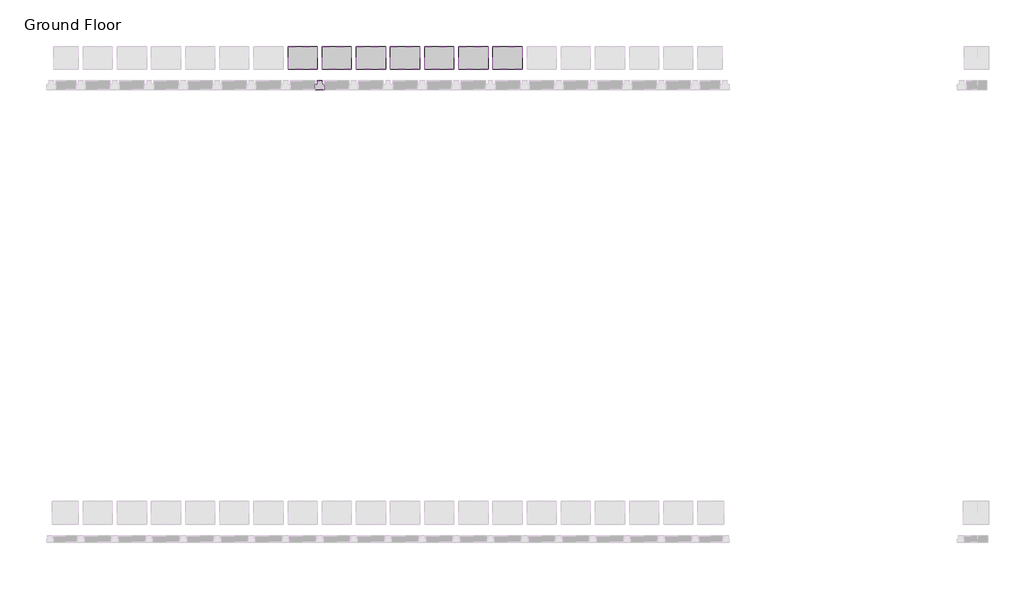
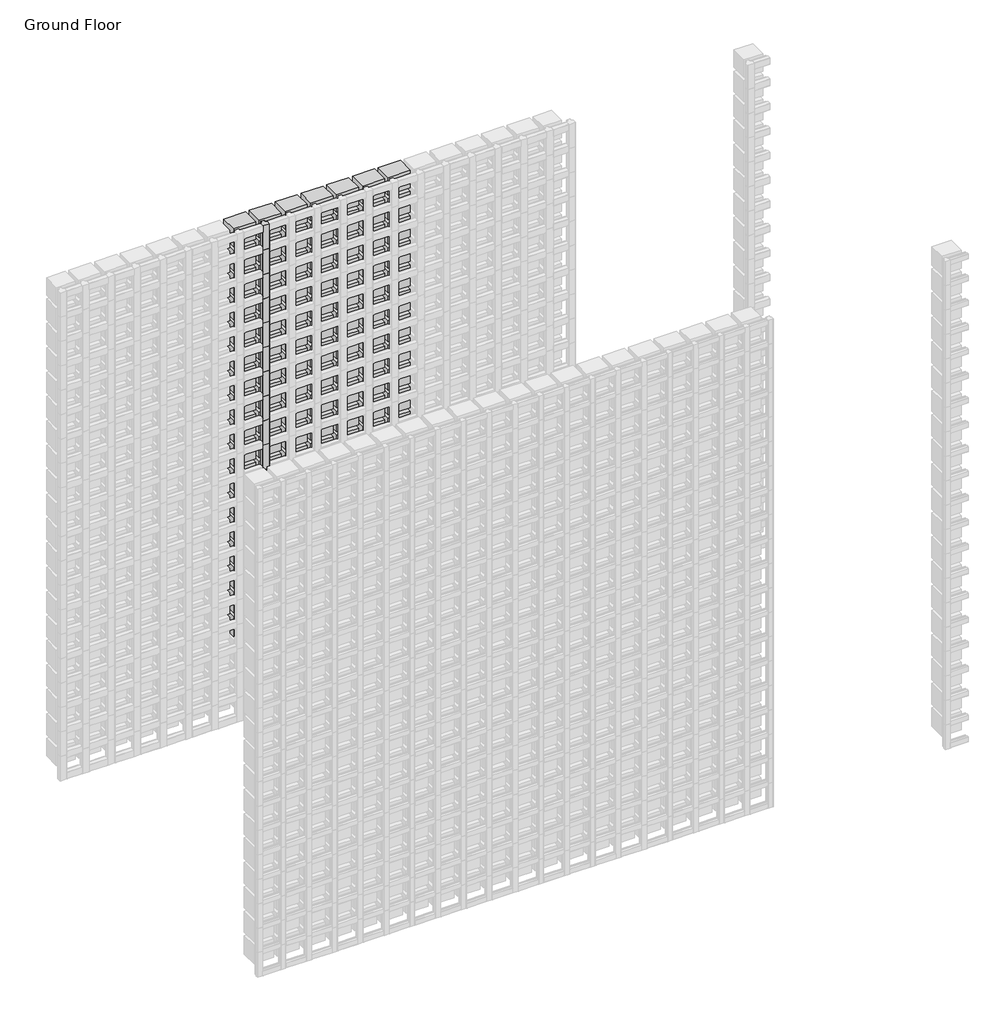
# One storey, part 121 of 350: 120 plates, 19 members.
"""IFC4 building model written with IfcOpenShell, lengths in millimetres."""

from ifc_helpers import new_model, si_unit, origin, place, context, project, spatial, transform, mapped, element, save
from components import rectangular_mullion_84e0df2e, empty_system_panel_empty_5a3607ba, empty_system_panel_empty_5e80e148

model = new_model("IFC4")

# Units and contexts
model_context = context("Model", 3, world=origin())
ifc_project = project(units=[si_unit("LENGTHUNIT", "METRE", prefix="MILLI")], contexts=[model_context])

# Site, building, storey
site = spatial("IfcSite", under=ifc_project)
building = spatial("IfcBuilding", under=site)
storey = spatial("IfcBuildingStorey", under=building, Name="Ground Floor", Elevation=0.0)

# Members
placement = place(None, origin())
rectangular_mullion_shape = rectangular_mullion_84e0df2e(model_context)
element("IfcMember", 1, ObjectType="Rectangular Mullion : Batten_Timber_Modinex_Austratus_Grid_Fin_40x40_Blackbutt", at=placement, inside=storey, context=model_context, shape_type="MappedRepresentation", body=[
    mapped(rectangular_mullion_shape, transform((7116.4361642, 44968.2978302, 150.0), x_axis=(1.0, 0.0, 0.0), y_axis=(0.0, -1.0, 0.0), z_axis=(0.0, 0.0, -1.0))),
])
element("IfcMember", 2, ObjectType="Rectangular Mullion : Batten_Timber_Modinex_Austratus_Grid_Fin_40x40_Blackbutt", at=placement, inside=storey, context=model_context, shape_type="MappedRepresentation", body=[
    mapped(rectangular_mullion_shape, transform((7116.4361642, 44968.2978302, 300.0), x_axis=(1.0, 0.0, 0.0), y_axis=(0.0, -1.0, 0.0), z_axis=(0.0, 0.0, -1.0))),
])
element("IfcMember", 3, ObjectType="Rectangular Mullion : Batten_Timber_Modinex_Austratus_Grid_Fin_40x40_Blackbutt", at=placement, inside=storey, context=model_context, shape_type="MappedRepresentation", body=[
    mapped(rectangular_mullion_shape, transform((7116.4361642, 44968.2978302, 450.0), x_axis=(1.0, 0.0, 0.0), y_axis=(0.0, -1.0, 0.0), z_axis=(0.0, 0.0, -1.0))),
])
element("IfcMember", 4, ObjectType="Rectangular Mullion : Batten_Timber_Modinex_Austratus_Grid_Fin_40x40_Blackbutt", at=placement, inside=storey, context=model_context, shape_type="MappedRepresentation", body=[
    mapped(rectangular_mullion_shape, transform((7116.4361642, 44968.2978302, 600.0), x_axis=(1.0, 0.0, 0.0), y_axis=(0.0, -1.0, 0.0), z_axis=(0.0, 0.0, -1.0))),
])
element("IfcMember", 5, ObjectType="Rectangular Mullion : Batten_Timber_Modinex_Austratus_Grid_Fin_40x40_Blackbutt", at=placement, inside=storey, context=model_context, shape_type="MappedRepresentation", body=[
    mapped(rectangular_mullion_shape, transform((7116.4361642, 44968.2978302, 750.0), x_axis=(1.0, 0.0, 0.0), y_axis=(0.0, -1.0, 0.0), z_axis=(0.0, 0.0, -1.0))),
])
element("IfcMember", 6, ObjectType="Rectangular Mullion : Batten_Timber_Modinex_Austratus_Grid_Fin_40x40_Blackbutt", at=placement, inside=storey, context=model_context, shape_type="MappedRepresentation", body=[
    mapped(rectangular_mullion_shape, transform((7116.4361642, 44968.2978302, 900.0), x_axis=(1.0, 0.0, 0.0), y_axis=(0.0, -1.0, 0.0), z_axis=(0.0, 0.0, -1.0))),
])
element("IfcMember", 7, ObjectType="Rectangular Mullion : Batten_Timber_Modinex_Austratus_Grid_Fin_40x40_Blackbutt", at=placement, inside=storey, context=model_context, shape_type="MappedRepresentation", body=[
    mapped(rectangular_mullion_shape, transform((7116.4361642, 44968.2978302, 1050.0), x_axis=(1.0, 0.0, 0.0), y_axis=(0.0, -1.0, 0.0), z_axis=(0.0, 0.0, -1.0))),
])
element("IfcMember", 8, ObjectType="Rectangular Mullion : Batten_Timber_Modinex_Austratus_Grid_Fin_40x40_Blackbutt", at=placement, inside=storey, context=model_context, shape_type="MappedRepresentation", body=[
    mapped(rectangular_mullion_shape, transform((7116.4361642, 44968.2978302, 1200.0), x_axis=(1.0, 0.0, 0.0), y_axis=(0.0, -1.0, 0.0), z_axis=(0.0, 0.0, -1.0))),
])
element("IfcMember", 9, ObjectType="Rectangular Mullion : Batten_Timber_Modinex_Austratus_Grid_Fin_40x40_Blackbutt", at=placement, inside=storey, context=model_context, shape_type="MappedRepresentation", body=[
    mapped(rectangular_mullion_shape, transform((7116.4361642, 44968.2978302, 1350.0), x_axis=(1.0, 0.0, 0.0), y_axis=(0.0, -1.0, 0.0), z_axis=(0.0, 0.0, -1.0))),
])
element("IfcMember", 10, ObjectType="Rectangular Mullion : Batten_Timber_Modinex_Austratus_Grid_Fin_40x40_Blackbutt", at=placement, inside=storey, context=model_context, shape_type="MappedRepresentation", body=[
    mapped(rectangular_mullion_shape, transform((7116.4361642, 44968.2978302, 1500.0), x_axis=(1.0, 0.0, 0.0), y_axis=(0.0, -1.0, 0.0), z_axis=(0.0, 0.0, -1.0))),
])
element("IfcMember", 11, ObjectType="Rectangular Mullion : Batten_Timber_Modinex_Austratus_Grid_Fin_40x40_Blackbutt", at=placement, inside=storey, context=model_context, shape_type="MappedRepresentation", body=[
    mapped(rectangular_mullion_shape, transform((7116.4361642, 44968.2978302, 1650.0), x_axis=(1.0, 0.0, 0.0), y_axis=(0.0, -1.0, 0.0), z_axis=(0.0, 0.0, -1.0))),
])
element("IfcMember", 12, ObjectType="Rectangular Mullion : Batten_Timber_Modinex_Austratus_Grid_Fin_40x40_Blackbutt", at=placement, inside=storey, context=model_context, shape_type="MappedRepresentation", body=[
    mapped(rectangular_mullion_shape, transform((7116.4361642, 44968.2978302, 1800.0), x_axis=(1.0, 0.0, 0.0), y_axis=(0.0, -1.0, 0.0), z_axis=(0.0, 0.0, -1.0))),
])
element("IfcMember", 13, ObjectType="Rectangular Mullion : Batten_Timber_Modinex_Austratus_Grid_Fin_40x40_Blackbutt", at=placement, inside=storey, context=model_context, shape_type="MappedRepresentation", body=[
    mapped(rectangular_mullion_shape, transform((7116.4361642, 44968.2978302, 1950.0), x_axis=(1.0, 0.0, 0.0), y_axis=(0.0, -1.0, 0.0), z_axis=(0.0, 0.0, -1.0))),
])
element("IfcMember", 14, ObjectType="Rectangular Mullion : Batten_Timber_Modinex_Austratus_Grid_Fin_40x40_Blackbutt", at=placement, inside=storey, context=model_context, shape_type="MappedRepresentation", body=[
    mapped(rectangular_mullion_shape, transform((7116.4361642, 44968.2978302, 2100.0), x_axis=(1.0, 0.0, 0.0), y_axis=(0.0, -1.0, 0.0), z_axis=(0.0, 0.0, -1.0))),
])
element("IfcMember", 15, ObjectType="Rectangular Mullion : Batten_Timber_Modinex_Austratus_Grid_Fin_40x40_Blackbutt", at=placement, inside=storey, context=model_context, shape_type="MappedRepresentation", body=[
    mapped(rectangular_mullion_shape, transform((7116.4361642, 44968.2978302, 2250.0), x_axis=(1.0, 0.0, 0.0), y_axis=(0.0, -1.0, 0.0), z_axis=(0.0, 0.0, -1.0))),
])
element("IfcMember", 16, ObjectType="Rectangular Mullion : Batten_Timber_Modinex_Austratus_Grid_Fin_40x40_Blackbutt", at=placement, inside=storey, context=model_context, shape_type="MappedRepresentation", body=[
    mapped(rectangular_mullion_shape, transform((7116.4361642, 44968.2978302, 2400.0), x_axis=(1.0, 0.0, 0.0), y_axis=(0.0, -1.0, 0.0), z_axis=(0.0, 0.0, -1.0))),
])
element("IfcMember", 17, ObjectType="Rectangular Mullion : Batten_Timber_Modinex_Austratus_Grid_Fin_40x40_Blackbutt", at=placement, inside=storey, context=model_context, shape_type="MappedRepresentation", body=[
    mapped(rectangular_mullion_shape, transform((7116.4361642, 44968.2978302, 2550.0), x_axis=(1.0, 0.0, 0.0), y_axis=(0.0, -1.0, 0.0), z_axis=(0.0, 0.0, -1.0))),
])
element("IfcMember", 18, ObjectType="Rectangular Mullion : Batten_Timber_Modinex_Austratus_Grid_Fin_40x40_Blackbutt", at=placement, inside=storey, context=model_context, shape_type="MappedRepresentation", body=[
    mapped(rectangular_mullion_shape, transform((7116.4361642, 44968.2978302, 2700.0), x_axis=(1.0, 0.0, 0.0), y_axis=(0.0, -1.0, 0.0), z_axis=(0.0, 0.0, -1.0))),
])
element("IfcMember", 19, ObjectType="Rectangular Mullion : Batten_Timber_Modinex_Austratus_Grid_Fin_40x40_Blackbutt", at=placement, inside=storey, context=model_context, shape_type="MappedRepresentation", body=[
    mapped(rectangular_mullion_shape, transform((7116.4361642, 44968.2978302, 2850.0), x_axis=(1.0, 0.0, 0.0), y_axis=(0.0, -1.0, 0.0), z_axis=(0.0, 0.0, -1.0))),
])

# Plates
empty_system_panel_empty_shape = empty_system_panel_empty_5a3607ba(model_context)
element("IfcPlate", 20, ObjectType="Empty System Panel : Empty", at=placement, inside=storey, context=model_context, shape_type="MappedRepresentation", body=[
    mapped(empty_system_panel_empty_shape, transform((7941.4361642, 44968.2978302, 310.812195), x_axis=(1.0, 0.0, 0.0), y_axis=(0.0, 1.0, 0.0), z_axis=(0.0, 0.0, 1.0))),
])
element("IfcPlate", 21, ObjectType="Empty System Panel : Empty", at=placement, inside=storey, context=model_context, shape_type="MappedRepresentation", body=[
    mapped(empty_system_panel_empty_shape, transform((7041.4361642, 44968.2978302, 460.812195), x_axis=(1.0, 0.0, 0.0), y_axis=(0.0, 1.0, 0.0), z_axis=(0.0, 0.0, 1.0))),
])
element("IfcPlate", 22, ObjectType="Empty System Panel : Empty", at=placement, inside=storey, context=model_context, shape_type="MappedRepresentation", body=[
    mapped(empty_system_panel_empty_shape, transform((7191.4361642, 44968.2978302, 460.812195), x_axis=(1.0, 0.0, 0.0), y_axis=(0.0, 1.0, 0.0), z_axis=(0.0, 0.0, 1.0))),
])
element("IfcPlate", 23, ObjectType="Empty System Panel : Empty", at=placement, inside=storey, context=model_context, shape_type="MappedRepresentation", body=[
    mapped(empty_system_panel_empty_shape, transform((7341.4361642, 44968.2978302, 460.812195), x_axis=(1.0, 0.0, 0.0), y_axis=(0.0, 1.0, 0.0), z_axis=(0.0, 0.0, 1.0))),
])
element("IfcPlate", 24, ObjectType="Empty System Panel : Empty", at=placement, inside=storey, context=model_context, shape_type="MappedRepresentation", body=[
    mapped(empty_system_panel_empty_shape, transform((7491.4361642, 44968.2978302, 460.812195), x_axis=(1.0, 0.0, 0.0), y_axis=(0.0, 1.0, 0.0), z_axis=(0.0, 0.0, 1.0))),
])
element("IfcPlate", 25, ObjectType="Empty System Panel : Empty", at=placement, inside=storey, context=model_context, shape_type="MappedRepresentation", body=[
    mapped(empty_system_panel_empty_shape, transform((7641.4361642, 44968.2978302, 460.812195), x_axis=(1.0, 0.0, 0.0), y_axis=(0.0, 1.0, 0.0), z_axis=(0.0, 0.0, 1.0))),
])
element("IfcPlate", 26, ObjectType="Empty System Panel : Empty", at=placement, inside=storey, context=model_context, shape_type="MappedRepresentation", body=[
    mapped(empty_system_panel_empty_shape, transform((7791.4361642, 44968.2978302, 460.812195), x_axis=(1.0, 0.0, 0.0), y_axis=(0.0, 1.0, 0.0), z_axis=(0.0, 0.0, 1.0))),
])
element("IfcPlate", 27, ObjectType="Empty System Panel : Empty", at=placement, inside=storey, context=model_context, shape_type="MappedRepresentation", body=[
    mapped(empty_system_panel_empty_shape, transform((7941.4361642, 44968.2978302, 460.812195), x_axis=(1.0, 0.0, 0.0), y_axis=(0.0, 1.0, 0.0), z_axis=(0.0, 0.0, 1.0))),
])
element("IfcPlate", 28, ObjectType="Empty System Panel : Empty", at=placement, inside=storey, context=model_context, shape_type="MappedRepresentation", body=[
    mapped(empty_system_panel_empty_shape, transform((7041.4361642, 44968.2978302, 610.812195), x_axis=(1.0, 0.0, 0.0), y_axis=(0.0, 1.0, 0.0), z_axis=(0.0, 0.0, 1.0))),
])
element("IfcPlate", 29, ObjectType="Empty System Panel : Empty", at=placement, inside=storey, context=model_context, shape_type="MappedRepresentation", body=[
    mapped(empty_system_panel_empty_shape, transform((7191.4361642, 44968.2978302, 610.812195), x_axis=(1.0, 0.0, 0.0), y_axis=(0.0, 1.0, 0.0), z_axis=(0.0, 0.0, 1.0))),
])
element("IfcPlate", 30, ObjectType="Empty System Panel : Empty", at=placement, inside=storey, context=model_context, shape_type="MappedRepresentation", body=[
    mapped(empty_system_panel_empty_shape, transform((7341.4361642, 44968.2978302, 610.812195), x_axis=(1.0, 0.0, 0.0), y_axis=(0.0, 1.0, 0.0), z_axis=(0.0, 0.0, 1.0))),
])
element("IfcPlate", 31, ObjectType="Empty System Panel : Empty", at=placement, inside=storey, context=model_context, shape_type="MappedRepresentation", body=[
    mapped(empty_system_panel_empty_shape, transform((7491.4361642, 44968.2978302, 610.812195), x_axis=(1.0, 0.0, 0.0), y_axis=(0.0, 1.0, 0.0), z_axis=(0.0, 0.0, 1.0))),
])
element("IfcPlate", 32, ObjectType="Empty System Panel : Empty", at=placement, inside=storey, context=model_context, shape_type="MappedRepresentation", body=[
    mapped(empty_system_panel_empty_shape, transform((7641.4361642, 44968.2978302, 610.812195), x_axis=(1.0, 0.0, 0.0), y_axis=(0.0, 1.0, 0.0), z_axis=(0.0, 0.0, 1.0))),
])
element("IfcPlate", 33, ObjectType="Empty System Panel : Empty", at=placement, inside=storey, context=model_context, shape_type="MappedRepresentation", body=[
    mapped(empty_system_panel_empty_shape, transform((7791.4361642, 44968.2978302, 610.812195), x_axis=(1.0, 0.0, 0.0), y_axis=(0.0, 1.0, 0.0), z_axis=(0.0, 0.0, 1.0))),
])
element("IfcPlate", 34, ObjectType="Empty System Panel : Empty", at=placement, inside=storey, context=model_context, shape_type="MappedRepresentation", body=[
    mapped(empty_system_panel_empty_shape, transform((7941.4361642, 44968.2978302, 610.812195), x_axis=(1.0, 0.0, 0.0), y_axis=(0.0, 1.0, 0.0), z_axis=(0.0, 0.0, 1.0))),
])
element("IfcPlate", 35, ObjectType="Empty System Panel : Empty", at=placement, inside=storey, context=model_context, shape_type="MappedRepresentation", body=[
    mapped(empty_system_panel_empty_shape, transform((7041.4361642, 44968.2978302, 760.812195), x_axis=(1.0, 0.0, 0.0), y_axis=(0.0, 1.0, 0.0), z_axis=(0.0, 0.0, 1.0))),
])
element("IfcPlate", 36, ObjectType="Empty System Panel : Empty", at=placement, inside=storey, context=model_context, shape_type="MappedRepresentation", body=[
    mapped(empty_system_panel_empty_shape, transform((7191.4361642, 44968.2978302, 760.812195), x_axis=(1.0, 0.0, 0.0), y_axis=(0.0, 1.0, 0.0), z_axis=(0.0, 0.0, 1.0))),
])
element("IfcPlate", 37, ObjectType="Empty System Panel : Empty", at=placement, inside=storey, context=model_context, shape_type="MappedRepresentation", body=[
    mapped(empty_system_panel_empty_shape, transform((7341.4361642, 44968.2978302, 760.812195), x_axis=(1.0, 0.0, 0.0), y_axis=(0.0, 1.0, 0.0), z_axis=(0.0, 0.0, 1.0))),
])
element("IfcPlate", 38, ObjectType="Empty System Panel : Empty", at=placement, inside=storey, context=model_context, shape_type="MappedRepresentation", body=[
    mapped(empty_system_panel_empty_shape, transform((7491.4361642, 44968.2978302, 760.812195), x_axis=(1.0, 0.0, 0.0), y_axis=(0.0, 1.0, 0.0), z_axis=(0.0, 0.0, 1.0))),
])
element("IfcPlate", 39, ObjectType="Empty System Panel : Empty", at=placement, inside=storey, context=model_context, shape_type="MappedRepresentation", body=[
    mapped(empty_system_panel_empty_shape, transform((7641.4361642, 44968.2978302, 760.812195), x_axis=(1.0, 0.0, 0.0), y_axis=(0.0, 1.0, 0.0), z_axis=(0.0, 0.0, 1.0))),
])
element("IfcPlate", 40, ObjectType="Empty System Panel : Empty", at=placement, inside=storey, context=model_context, shape_type="MappedRepresentation", body=[
    mapped(empty_system_panel_empty_shape, transform((7791.4361642, 44968.2978302, 760.812195), x_axis=(1.0, 0.0, 0.0), y_axis=(0.0, 1.0, 0.0), z_axis=(0.0, 0.0, 1.0))),
])
element("IfcPlate", 41, ObjectType="Empty System Panel : Empty", at=placement, inside=storey, context=model_context, shape_type="MappedRepresentation", body=[
    mapped(empty_system_panel_empty_shape, transform((7941.4361642, 44968.2978302, 760.812195), x_axis=(1.0, 0.0, 0.0), y_axis=(0.0, 1.0, 0.0), z_axis=(0.0, 0.0, 1.0))),
])
element("IfcPlate", 42, ObjectType="Empty System Panel : Empty", at=placement, inside=storey, context=model_context, shape_type="MappedRepresentation", body=[
    mapped(empty_system_panel_empty_shape, transform((7041.4361642, 44968.2978302, 910.812195), x_axis=(1.0, 0.0, 0.0), y_axis=(0.0, 1.0, 0.0), z_axis=(0.0, 0.0, 1.0))),
])
element("IfcPlate", 43, ObjectType="Empty System Panel : Empty", at=placement, inside=storey, context=model_context, shape_type="MappedRepresentation", body=[
    mapped(empty_system_panel_empty_shape, transform((7191.4361642, 44968.2978302, 910.812195), x_axis=(1.0, 0.0, 0.0), y_axis=(0.0, 1.0, 0.0), z_axis=(0.0, 0.0, 1.0))),
])
element("IfcPlate", 44, ObjectType="Empty System Panel : Empty", at=placement, inside=storey, context=model_context, shape_type="MappedRepresentation", body=[
    mapped(empty_system_panel_empty_shape, transform((7341.4361642, 44968.2978302, 910.812195), x_axis=(1.0, 0.0, 0.0), y_axis=(0.0, 1.0, 0.0), z_axis=(0.0, 0.0, 1.0))),
])
element("IfcPlate", 45, ObjectType="Empty System Panel : Empty", at=placement, inside=storey, context=model_context, shape_type="MappedRepresentation", body=[
    mapped(empty_system_panel_empty_shape, transform((7491.4361642, 44968.2978302, 910.812195), x_axis=(1.0, 0.0, 0.0), y_axis=(0.0, 1.0, 0.0), z_axis=(0.0, 0.0, 1.0))),
])
element("IfcPlate", 46, ObjectType="Empty System Panel : Empty", at=placement, inside=storey, context=model_context, shape_type="MappedRepresentation", body=[
    mapped(empty_system_panel_empty_shape, transform((7641.4361642, 44968.2978302, 910.812195), x_axis=(1.0, 0.0, 0.0), y_axis=(0.0, 1.0, 0.0), z_axis=(0.0, 0.0, 1.0))),
])
element("IfcPlate", 47, ObjectType="Empty System Panel : Empty", at=placement, inside=storey, context=model_context, shape_type="MappedRepresentation", body=[
    mapped(empty_system_panel_empty_shape, transform((7791.4361642, 44968.2978302, 910.812195), x_axis=(1.0, 0.0, 0.0), y_axis=(0.0, 1.0, 0.0), z_axis=(0.0, 0.0, 1.0))),
])
element("IfcPlate", 48, ObjectType="Empty System Panel : Empty", at=placement, inside=storey, context=model_context, shape_type="MappedRepresentation", body=[
    mapped(empty_system_panel_empty_shape, transform((7941.4361642, 44968.2978302, 910.812195), x_axis=(1.0, 0.0, 0.0), y_axis=(0.0, 1.0, 0.0), z_axis=(0.0, 0.0, 1.0))),
])
element("IfcPlate", 49, ObjectType="Empty System Panel : Empty", at=placement, inside=storey, context=model_context, shape_type="MappedRepresentation", body=[
    mapped(empty_system_panel_empty_shape, transform((7041.4361642, 44968.2978302, 1060.812195), x_axis=(1.0, 0.0, 0.0), y_axis=(0.0, 1.0, 0.0), z_axis=(0.0, 0.0, 1.0))),
])
element("IfcPlate", 50, ObjectType="Empty System Panel : Empty", at=placement, inside=storey, context=model_context, shape_type="MappedRepresentation", body=[
    mapped(empty_system_panel_empty_shape, transform((7191.4361642, 44968.2978302, 1060.812195), x_axis=(1.0, 0.0, 0.0), y_axis=(0.0, 1.0, 0.0), z_axis=(0.0, 0.0, 1.0))),
])
element("IfcPlate", 51, ObjectType="Empty System Panel : Empty", at=placement, inside=storey, context=model_context, shape_type="MappedRepresentation", body=[
    mapped(empty_system_panel_empty_shape, transform((7341.4361642, 44968.2978302, 1060.812195), x_axis=(1.0, 0.0, 0.0), y_axis=(0.0, 1.0, 0.0), z_axis=(0.0, 0.0, 1.0))),
])
element("IfcPlate", 52, ObjectType="Empty System Panel : Empty", at=placement, inside=storey, context=model_context, shape_type="MappedRepresentation", body=[
    mapped(empty_system_panel_empty_shape, transform((7491.4361642, 44968.2978302, 1060.812195), x_axis=(1.0, 0.0, 0.0), y_axis=(0.0, 1.0, 0.0), z_axis=(0.0, 0.0, 1.0))),
])
element("IfcPlate", 53, ObjectType="Empty System Panel : Empty", at=placement, inside=storey, context=model_context, shape_type="MappedRepresentation", body=[
    mapped(empty_system_panel_empty_shape, transform((7641.4361642, 44968.2978302, 1060.812195), x_axis=(1.0, 0.0, 0.0), y_axis=(0.0, 1.0, 0.0), z_axis=(0.0, 0.0, 1.0))),
])
element("IfcPlate", 54, ObjectType="Empty System Panel : Empty", at=placement, inside=storey, context=model_context, shape_type="MappedRepresentation", body=[
    mapped(empty_system_panel_empty_shape, transform((7791.4361642, 44968.2978302, 1060.812195), x_axis=(1.0, 0.0, 0.0), y_axis=(0.0, 1.0, 0.0), z_axis=(0.0, 0.0, 1.0))),
])
element("IfcPlate", 55, ObjectType="Empty System Panel : Empty", at=placement, inside=storey, context=model_context, shape_type="MappedRepresentation", body=[
    mapped(empty_system_panel_empty_shape, transform((7941.4361642, 44968.2978302, 1060.812195), x_axis=(1.0, 0.0, 0.0), y_axis=(0.0, 1.0, 0.0), z_axis=(0.0, 0.0, 1.0))),
])
element("IfcPlate", 56, ObjectType="Empty System Panel : Empty", at=placement, inside=storey, context=model_context, shape_type="MappedRepresentation", body=[
    mapped(empty_system_panel_empty_shape, transform((7041.4361642, 44968.2978302, 1210.812195), x_axis=(1.0, 0.0, 0.0), y_axis=(0.0, 1.0, 0.0), z_axis=(0.0, 0.0, 1.0))),
])
element("IfcPlate", 57, ObjectType="Empty System Panel : Empty", at=placement, inside=storey, context=model_context, shape_type="MappedRepresentation", body=[
    mapped(empty_system_panel_empty_shape, transform((7191.4361642, 44968.2978302, 1210.812195), x_axis=(1.0, 0.0, 0.0), y_axis=(0.0, 1.0, 0.0), z_axis=(0.0, 0.0, 1.0))),
])
element("IfcPlate", 58, ObjectType="Empty System Panel : Empty", at=placement, inside=storey, context=model_context, shape_type="MappedRepresentation", body=[
    mapped(empty_system_panel_empty_shape, transform((7341.4361642, 44968.2978302, 1210.812195), x_axis=(1.0, 0.0, 0.0), y_axis=(0.0, 1.0, 0.0), z_axis=(0.0, 0.0, 1.0))),
])
element("IfcPlate", 59, ObjectType="Empty System Panel : Empty", at=placement, inside=storey, context=model_context, shape_type="MappedRepresentation", body=[
    mapped(empty_system_panel_empty_shape, transform((7491.4361642, 44968.2978302, 1210.812195), x_axis=(1.0, 0.0, 0.0), y_axis=(0.0, 1.0, 0.0), z_axis=(0.0, 0.0, 1.0))),
])
element("IfcPlate", 60, ObjectType="Empty System Panel : Empty", at=placement, inside=storey, context=model_context, shape_type="MappedRepresentation", body=[
    mapped(empty_system_panel_empty_shape, transform((7641.4361642, 44968.2978302, 1210.812195), x_axis=(1.0, 0.0, 0.0), y_axis=(0.0, 1.0, 0.0), z_axis=(0.0, 0.0, 1.0))),
])
element("IfcPlate", 61, ObjectType="Empty System Panel : Empty", at=placement, inside=storey, context=model_context, shape_type="MappedRepresentation", body=[
    mapped(empty_system_panel_empty_shape, transform((7791.4361642, 44968.2978302, 1210.812195), x_axis=(1.0, 0.0, 0.0), y_axis=(0.0, 1.0, 0.0), z_axis=(0.0, 0.0, 1.0))),
])
element("IfcPlate", 62, ObjectType="Empty System Panel : Empty", at=placement, inside=storey, context=model_context, shape_type="MappedRepresentation", body=[
    mapped(empty_system_panel_empty_shape, transform((7941.4361642, 44968.2978302, 1210.812195), x_axis=(1.0, 0.0, 0.0), y_axis=(0.0, 1.0, 0.0), z_axis=(0.0, 0.0, 1.0))),
])
element("IfcPlate", 63, ObjectType="Empty System Panel : Empty", at=placement, inside=storey, context=model_context, shape_type="MappedRepresentation", body=[
    mapped(empty_system_panel_empty_shape, transform((7041.4361642, 44968.2978302, 1360.812195), x_axis=(1.0, 0.0, 0.0), y_axis=(0.0, 1.0, 0.0), z_axis=(0.0, 0.0, 1.0))),
])
element("IfcPlate", 64, ObjectType="Empty System Panel : Empty", at=placement, inside=storey, context=model_context, shape_type="MappedRepresentation", body=[
    mapped(empty_system_panel_empty_shape, transform((7191.4361642, 44968.2978302, 1360.812195), x_axis=(1.0, 0.0, 0.0), y_axis=(0.0, 1.0, 0.0), z_axis=(0.0, 0.0, 1.0))),
])
element("IfcPlate", 65, ObjectType="Empty System Panel : Empty", at=placement, inside=storey, context=model_context, shape_type="MappedRepresentation", body=[
    mapped(empty_system_panel_empty_shape, transform((7341.4361642, 44968.2978302, 1360.812195), x_axis=(1.0, 0.0, 0.0), y_axis=(0.0, 1.0, 0.0), z_axis=(0.0, 0.0, 1.0))),
])
element("IfcPlate", 66, ObjectType="Empty System Panel : Empty", at=placement, inside=storey, context=model_context, shape_type="MappedRepresentation", body=[
    mapped(empty_system_panel_empty_shape, transform((7491.4361642, 44968.2978302, 1360.812195), x_axis=(1.0, 0.0, 0.0), y_axis=(0.0, 1.0, 0.0), z_axis=(0.0, 0.0, 1.0))),
])
element("IfcPlate", 67, ObjectType="Empty System Panel : Empty", at=placement, inside=storey, context=model_context, shape_type="MappedRepresentation", body=[
    mapped(empty_system_panel_empty_shape, transform((7641.4361642, 44968.2978302, 1360.812195), x_axis=(1.0, 0.0, 0.0), y_axis=(0.0, 1.0, 0.0), z_axis=(0.0, 0.0, 1.0))),
])
element("IfcPlate", 68, ObjectType="Empty System Panel : Empty", at=placement, inside=storey, context=model_context, shape_type="MappedRepresentation", body=[
    mapped(empty_system_panel_empty_shape, transform((7791.4361642, 44968.2978302, 1360.812195), x_axis=(1.0, 0.0, 0.0), y_axis=(0.0, 1.0, 0.0), z_axis=(0.0, 0.0, 1.0))),
])
element("IfcPlate", 69, ObjectType="Empty System Panel : Empty", at=placement, inside=storey, context=model_context, shape_type="MappedRepresentation", body=[
    mapped(empty_system_panel_empty_shape, transform((7941.4361642, 44968.2978302, 1360.812195), x_axis=(1.0, 0.0, 0.0), y_axis=(0.0, 1.0, 0.0), z_axis=(0.0, 0.0, 1.0))),
])
element("IfcPlate", 70, ObjectType="Empty System Panel : Empty", at=placement, inside=storey, context=model_context, shape_type="MappedRepresentation", body=[
    mapped(empty_system_panel_empty_shape, transform((7041.4361642, 44968.2978302, 1510.812195), x_axis=(1.0, 0.0, 0.0), y_axis=(0.0, 1.0, 0.0), z_axis=(0.0, 0.0, 1.0))),
])
element("IfcPlate", 71, ObjectType="Empty System Panel : Empty", at=placement, inside=storey, context=model_context, shape_type="MappedRepresentation", body=[
    mapped(empty_system_panel_empty_shape, transform((7191.4361642, 44968.2978302, 1510.812195), x_axis=(1.0, 0.0, 0.0), y_axis=(0.0, 1.0, 0.0), z_axis=(0.0, 0.0, 1.0))),
])
element("IfcPlate", 72, ObjectType="Empty System Panel : Empty", at=placement, inside=storey, context=model_context, shape_type="MappedRepresentation", body=[
    mapped(empty_system_panel_empty_shape, transform((7341.4361642, 44968.2978302, 1510.812195), x_axis=(1.0, 0.0, 0.0), y_axis=(0.0, 1.0, 0.0), z_axis=(0.0, 0.0, 1.0))),
])
element("IfcPlate", 73, ObjectType="Empty System Panel : Empty", at=placement, inside=storey, context=model_context, shape_type="MappedRepresentation", body=[
    mapped(empty_system_panel_empty_shape, transform((7491.4361642, 44968.2978302, 1510.812195), x_axis=(1.0, 0.0, 0.0), y_axis=(0.0, 1.0, 0.0), z_axis=(0.0, 0.0, 1.0))),
])
element("IfcPlate", 74, ObjectType="Empty System Panel : Empty", at=placement, inside=storey, context=model_context, shape_type="MappedRepresentation", body=[
    mapped(empty_system_panel_empty_shape, transform((7641.4361642, 44968.2978302, 1510.812195), x_axis=(1.0, 0.0, 0.0), y_axis=(0.0, 1.0, 0.0), z_axis=(0.0, 0.0, 1.0))),
])
element("IfcPlate", 75, ObjectType="Empty System Panel : Empty", at=placement, inside=storey, context=model_context, shape_type="MappedRepresentation", body=[
    mapped(empty_system_panel_empty_shape, transform((7791.4361642, 44968.2978302, 1510.812195), x_axis=(1.0, 0.0, 0.0), y_axis=(0.0, 1.0, 0.0), z_axis=(0.0, 0.0, 1.0))),
])
element("IfcPlate", 76, ObjectType="Empty System Panel : Empty", at=placement, inside=storey, context=model_context, shape_type="MappedRepresentation", body=[
    mapped(empty_system_panel_empty_shape, transform((7941.4361642, 44968.2978302, 1510.812195), x_axis=(1.0, 0.0, 0.0), y_axis=(0.0, 1.0, 0.0), z_axis=(0.0, 0.0, 1.0))),
])
element("IfcPlate", 77, ObjectType="Empty System Panel : Empty", at=placement, inside=storey, context=model_context, shape_type="MappedRepresentation", body=[
    mapped(empty_system_panel_empty_shape, transform((7041.4361642, 44968.2978302, 1660.812195), x_axis=(1.0, 0.0, 0.0), y_axis=(0.0, 1.0, 0.0), z_axis=(0.0, 0.0, 1.0))),
])
element("IfcPlate", 78, ObjectType="Empty System Panel : Empty", at=placement, inside=storey, context=model_context, shape_type="MappedRepresentation", body=[
    mapped(empty_system_panel_empty_shape, transform((7191.4361642, 44968.2978302, 1660.812195), x_axis=(1.0, 0.0, 0.0), y_axis=(0.0, 1.0, 0.0), z_axis=(0.0, 0.0, 1.0))),
])
element("IfcPlate", 79, ObjectType="Empty System Panel : Empty", at=placement, inside=storey, context=model_context, shape_type="MappedRepresentation", body=[
    mapped(empty_system_panel_empty_shape, transform((7341.4361642, 44968.2978302, 1660.812195), x_axis=(1.0, 0.0, 0.0), y_axis=(0.0, 1.0, 0.0), z_axis=(0.0, 0.0, 1.0))),
])
element("IfcPlate", 80, ObjectType="Empty System Panel : Empty", at=placement, inside=storey, context=model_context, shape_type="MappedRepresentation", body=[
    mapped(empty_system_panel_empty_shape, transform((7491.4361642, 44968.2978302, 1660.812195), x_axis=(1.0, 0.0, 0.0), y_axis=(0.0, 1.0, 0.0), z_axis=(0.0, 0.0, 1.0))),
])
element("IfcPlate", 81, ObjectType="Empty System Panel : Empty", at=placement, inside=storey, context=model_context, shape_type="MappedRepresentation", body=[
    mapped(empty_system_panel_empty_shape, transform((7641.4361642, 44968.2978302, 1660.812195), x_axis=(1.0, 0.0, 0.0), y_axis=(0.0, 1.0, 0.0), z_axis=(0.0, 0.0, 1.0))),
])
element("IfcPlate", 82, ObjectType="Empty System Panel : Empty", at=placement, inside=storey, context=model_context, shape_type="MappedRepresentation", body=[
    mapped(empty_system_panel_empty_shape, transform((7791.4361642, 44968.2978302, 1660.812195), x_axis=(1.0, 0.0, 0.0), y_axis=(0.0, 1.0, 0.0), z_axis=(0.0, 0.0, 1.0))),
])
element("IfcPlate", 83, ObjectType="Empty System Panel : Empty", at=placement, inside=storey, context=model_context, shape_type="MappedRepresentation", body=[
    mapped(empty_system_panel_empty_shape, transform((7941.4361642, 44968.2978302, 1660.812195), x_axis=(1.0, 0.0, 0.0), y_axis=(0.0, 1.0, 0.0), z_axis=(0.0, 0.0, 1.0))),
])
element("IfcPlate", 84, ObjectType="Empty System Panel : Empty", at=placement, inside=storey, context=model_context, shape_type="MappedRepresentation", body=[
    mapped(empty_system_panel_empty_shape, transform((7041.4361642, 44968.2978302, 1810.812195), x_axis=(1.0, 0.0, 0.0), y_axis=(0.0, 1.0, 0.0), z_axis=(0.0, 0.0, 1.0))),
])
element("IfcPlate", 85, ObjectType="Empty System Panel : Empty", at=placement, inside=storey, context=model_context, shape_type="MappedRepresentation", body=[
    mapped(empty_system_panel_empty_shape, transform((7191.4361642, 44968.2978302, 1810.812195), x_axis=(1.0, 0.0, 0.0), y_axis=(0.0, 1.0, 0.0), z_axis=(0.0, 0.0, 1.0))),
])
element("IfcPlate", 86, ObjectType="Empty System Panel : Empty", at=placement, inside=storey, context=model_context, shape_type="MappedRepresentation", body=[
    mapped(empty_system_panel_empty_shape, transform((7341.4361642, 44968.2978302, 1810.812195), x_axis=(1.0, 0.0, 0.0), y_axis=(0.0, 1.0, 0.0), z_axis=(0.0, 0.0, 1.0))),
])
element("IfcPlate", 87, ObjectType="Empty System Panel : Empty", at=placement, inside=storey, context=model_context, shape_type="MappedRepresentation", body=[
    mapped(empty_system_panel_empty_shape, transform((7491.4361642, 44968.2978302, 1810.812195), x_axis=(1.0, 0.0, 0.0), y_axis=(0.0, 1.0, 0.0), z_axis=(0.0, 0.0, 1.0))),
])
element("IfcPlate", 88, ObjectType="Empty System Panel : Empty", at=placement, inside=storey, context=model_context, shape_type="MappedRepresentation", body=[
    mapped(empty_system_panel_empty_shape, transform((7641.4361642, 44968.2978302, 1810.812195), x_axis=(1.0, 0.0, 0.0), y_axis=(0.0, 1.0, 0.0), z_axis=(0.0, 0.0, 1.0))),
])
element("IfcPlate", 89, ObjectType="Empty System Panel : Empty", at=placement, inside=storey, context=model_context, shape_type="MappedRepresentation", body=[
    mapped(empty_system_panel_empty_shape, transform((7791.4361642, 44968.2978302, 1810.812195), x_axis=(1.0, 0.0, 0.0), y_axis=(0.0, 1.0, 0.0), z_axis=(0.0, 0.0, 1.0))),
])
element("IfcPlate", 90, ObjectType="Empty System Panel : Empty", at=placement, inside=storey, context=model_context, shape_type="MappedRepresentation", body=[
    mapped(empty_system_panel_empty_shape, transform((7941.4361642, 44968.2978302, 1810.812195), x_axis=(1.0, 0.0, 0.0), y_axis=(0.0, 1.0, 0.0), z_axis=(0.0, 0.0, 1.0))),
])
element("IfcPlate", 91, ObjectType="Empty System Panel : Empty", at=placement, inside=storey, context=model_context, shape_type="MappedRepresentation", body=[
    mapped(empty_system_panel_empty_shape, transform((7041.4361642, 44968.2978302, 1960.812195), x_axis=(1.0, 0.0, 0.0), y_axis=(0.0, 1.0, 0.0), z_axis=(0.0, 0.0, 1.0))),
])
element("IfcPlate", 92, ObjectType="Empty System Panel : Empty", at=placement, inside=storey, context=model_context, shape_type="MappedRepresentation", body=[
    mapped(empty_system_panel_empty_shape, transform((7191.4361642, 44968.2978302, 1960.812195), x_axis=(1.0, 0.0, 0.0), y_axis=(0.0, 1.0, 0.0), z_axis=(0.0, 0.0, 1.0))),
])
element("IfcPlate", 93, ObjectType="Empty System Panel : Empty", at=placement, inside=storey, context=model_context, shape_type="MappedRepresentation", body=[
    mapped(empty_system_panel_empty_shape, transform((7341.4361642, 44968.2978302, 1960.812195), x_axis=(1.0, 0.0, 0.0), y_axis=(0.0, 1.0, 0.0), z_axis=(0.0, 0.0, 1.0))),
])
element("IfcPlate", 94, ObjectType="Empty System Panel : Empty", at=placement, inside=storey, context=model_context, shape_type="MappedRepresentation", body=[
    mapped(empty_system_panel_empty_shape, transform((7491.4361642, 44968.2978302, 1960.812195), x_axis=(1.0, 0.0, 0.0), y_axis=(0.0, 1.0, 0.0), z_axis=(0.0, 0.0, 1.0))),
])
element("IfcPlate", 95, ObjectType="Empty System Panel : Empty", at=placement, inside=storey, context=model_context, shape_type="MappedRepresentation", body=[
    mapped(empty_system_panel_empty_shape, transform((7641.4361642, 44968.2978302, 1960.812195), x_axis=(1.0, 0.0, 0.0), y_axis=(0.0, 1.0, 0.0), z_axis=(0.0, 0.0, 1.0))),
])
element("IfcPlate", 96, ObjectType="Empty System Panel : Empty", at=placement, inside=storey, context=model_context, shape_type="MappedRepresentation", body=[
    mapped(empty_system_panel_empty_shape, transform((7791.4361642, 44968.2978302, 1960.812195), x_axis=(1.0, 0.0, 0.0), y_axis=(0.0, 1.0, 0.0), z_axis=(0.0, 0.0, 1.0))),
])
element("IfcPlate", 97, ObjectType="Empty System Panel : Empty", at=placement, inside=storey, context=model_context, shape_type="MappedRepresentation", body=[
    mapped(empty_system_panel_empty_shape, transform((7941.4361642, 44968.2978302, 1960.812195), x_axis=(1.0, 0.0, 0.0), y_axis=(0.0, 1.0, 0.0), z_axis=(0.0, 0.0, 1.0))),
])
element("IfcPlate", 98, ObjectType="Empty System Panel : Empty", at=placement, inside=storey, context=model_context, shape_type="MappedRepresentation", body=[
    mapped(empty_system_panel_empty_shape, transform((7041.4361642, 44968.2978302, 2110.812195), x_axis=(1.0, 0.0, 0.0), y_axis=(0.0, 1.0, 0.0), z_axis=(0.0, 0.0, 1.0))),
])
element("IfcPlate", 99, ObjectType="Empty System Panel : Empty", at=placement, inside=storey, context=model_context, shape_type="MappedRepresentation", body=[
    mapped(empty_system_panel_empty_shape, transform((7191.4361642, 44968.2978302, 2110.812195), x_axis=(1.0, 0.0, 0.0), y_axis=(0.0, 1.0, 0.0), z_axis=(0.0, 0.0, 1.0))),
])
element("IfcPlate", 100, ObjectType="Empty System Panel : Empty", at=placement, inside=storey, context=model_context, shape_type="MappedRepresentation", body=[
    mapped(empty_system_panel_empty_shape, transform((7341.4361642, 44968.2978302, 2110.812195), x_axis=(1.0, 0.0, 0.0), y_axis=(0.0, 1.0, 0.0), z_axis=(0.0, 0.0, 1.0))),
])
element("IfcPlate", 101, ObjectType="Empty System Panel : Empty", at=placement, inside=storey, context=model_context, shape_type="MappedRepresentation", body=[
    mapped(empty_system_panel_empty_shape, transform((7491.4361642, 44968.2978302, 2110.812195), x_axis=(1.0, 0.0, 0.0), y_axis=(0.0, 1.0, 0.0), z_axis=(0.0, 0.0, 1.0))),
])
element("IfcPlate", 102, ObjectType="Empty System Panel : Empty", at=placement, inside=storey, context=model_context, shape_type="MappedRepresentation", body=[
    mapped(empty_system_panel_empty_shape, transform((7641.4361642, 44968.2978302, 2110.812195), x_axis=(1.0, 0.0, 0.0), y_axis=(0.0, 1.0, 0.0), z_axis=(0.0, 0.0, 1.0))),
])
element("IfcPlate", 103, ObjectType="Empty System Panel : Empty", at=placement, inside=storey, context=model_context, shape_type="MappedRepresentation", body=[
    mapped(empty_system_panel_empty_shape, transform((7791.4361642, 44968.2978302, 2110.812195), x_axis=(1.0, 0.0, 0.0), y_axis=(0.0, 1.0, 0.0), z_axis=(0.0, 0.0, 1.0))),
])
element("IfcPlate", 104, ObjectType="Empty System Panel : Empty", at=placement, inside=storey, context=model_context, shape_type="MappedRepresentation", body=[
    mapped(empty_system_panel_empty_shape, transform((7941.4361642, 44968.2978302, 2110.812195), x_axis=(1.0, 0.0, 0.0), y_axis=(0.0, 1.0, 0.0), z_axis=(0.0, 0.0, 1.0))),
])
element("IfcPlate", 105, ObjectType="Empty System Panel : Empty", at=placement, inside=storey, context=model_context, shape_type="MappedRepresentation", body=[
    mapped(empty_system_panel_empty_shape, transform((7041.4361642, 44968.2978302, 2260.812195), x_axis=(1.0, 0.0, 0.0), y_axis=(0.0, 1.0, 0.0), z_axis=(0.0, 0.0, 1.0))),
])
element("IfcPlate", 106, ObjectType="Empty System Panel : Empty", at=placement, inside=storey, context=model_context, shape_type="MappedRepresentation", body=[
    mapped(empty_system_panel_empty_shape, transform((7191.4361642, 44968.2978302, 2260.812195), x_axis=(1.0, 0.0, 0.0), y_axis=(0.0, 1.0, 0.0), z_axis=(0.0, 0.0, 1.0))),
])
element("IfcPlate", 107, ObjectType="Empty System Panel : Empty", at=placement, inside=storey, context=model_context, shape_type="MappedRepresentation", body=[
    mapped(empty_system_panel_empty_shape, transform((7341.4361642, 44968.2978302, 2260.812195), x_axis=(1.0, 0.0, 0.0), y_axis=(0.0, 1.0, 0.0), z_axis=(0.0, 0.0, 1.0))),
])
element("IfcPlate", 108, ObjectType="Empty System Panel : Empty", at=placement, inside=storey, context=model_context, shape_type="MappedRepresentation", body=[
    mapped(empty_system_panel_empty_shape, transform((7491.4361642, 44968.2978302, 2260.812195), x_axis=(1.0, 0.0, 0.0), y_axis=(0.0, 1.0, 0.0), z_axis=(0.0, 0.0, 1.0))),
])
element("IfcPlate", 109, ObjectType="Empty System Panel : Empty", at=placement, inside=storey, context=model_context, shape_type="MappedRepresentation", body=[
    mapped(empty_system_panel_empty_shape, transform((7641.4361642, 44968.2978302, 2260.812195), x_axis=(1.0, 0.0, 0.0), y_axis=(0.0, 1.0, 0.0), z_axis=(0.0, 0.0, 1.0))),
])
element("IfcPlate", 110, ObjectType="Empty System Panel : Empty", at=placement, inside=storey, context=model_context, shape_type="MappedRepresentation", body=[
    mapped(empty_system_panel_empty_shape, transform((7791.4361642, 44968.2978302, 2260.812195), x_axis=(1.0, 0.0, 0.0), y_axis=(0.0, 1.0, 0.0), z_axis=(0.0, 0.0, 1.0))),
])
element("IfcPlate", 111, ObjectType="Empty System Panel : Empty", at=placement, inside=storey, context=model_context, shape_type="MappedRepresentation", body=[
    mapped(empty_system_panel_empty_shape, transform((7941.4361642, 44968.2978302, 2260.812195), x_axis=(1.0, 0.0, 0.0), y_axis=(0.0, 1.0, 0.0), z_axis=(0.0, 0.0, 1.0))),
])
element("IfcPlate", 112, ObjectType="Empty System Panel : Empty", at=placement, inside=storey, context=model_context, shape_type="MappedRepresentation", body=[
    mapped(empty_system_panel_empty_shape, transform((7041.4361642, 44968.2978302, 2410.812195), x_axis=(1.0, 0.0, 0.0), y_axis=(0.0, 1.0, 0.0), z_axis=(0.0, 0.0, 1.0))),
])
element("IfcPlate", 113, ObjectType="Empty System Panel : Empty", at=placement, inside=storey, context=model_context, shape_type="MappedRepresentation", body=[
    mapped(empty_system_panel_empty_shape, transform((7191.4361642, 44968.2978302, 2410.812195), x_axis=(1.0, 0.0, 0.0), y_axis=(0.0, 1.0, 0.0), z_axis=(0.0, 0.0, 1.0))),
])
element("IfcPlate", 114, ObjectType="Empty System Panel : Empty", at=placement, inside=storey, context=model_context, shape_type="MappedRepresentation", body=[
    mapped(empty_system_panel_empty_shape, transform((7341.4361642, 44968.2978302, 2410.812195), x_axis=(1.0, 0.0, 0.0), y_axis=(0.0, 1.0, 0.0), z_axis=(0.0, 0.0, 1.0))),
])
element("IfcPlate", 115, ObjectType="Empty System Panel : Empty", at=placement, inside=storey, context=model_context, shape_type="MappedRepresentation", body=[
    mapped(empty_system_panel_empty_shape, transform((7491.4361642, 44968.2978302, 2410.812195), x_axis=(1.0, 0.0, 0.0), y_axis=(0.0, 1.0, 0.0), z_axis=(0.0, 0.0, 1.0))),
])
element("IfcPlate", 116, ObjectType="Empty System Panel : Empty", at=placement, inside=storey, context=model_context, shape_type="MappedRepresentation", body=[
    mapped(empty_system_panel_empty_shape, transform((7641.4361642, 44968.2978302, 2410.812195), x_axis=(1.0, 0.0, 0.0), y_axis=(0.0, 1.0, 0.0), z_axis=(0.0, 0.0, 1.0))),
])
element("IfcPlate", 117, ObjectType="Empty System Panel : Empty", at=placement, inside=storey, context=model_context, shape_type="MappedRepresentation", body=[
    mapped(empty_system_panel_empty_shape, transform((7791.4361642, 44968.2978302, 2410.812195), x_axis=(1.0, 0.0, 0.0), y_axis=(0.0, 1.0, 0.0), z_axis=(0.0, 0.0, 1.0))),
])
element("IfcPlate", 118, ObjectType="Empty System Panel : Empty", at=placement, inside=storey, context=model_context, shape_type="MappedRepresentation", body=[
    mapped(empty_system_panel_empty_shape, transform((7941.4361642, 44968.2978302, 2410.812195), x_axis=(1.0, 0.0, 0.0), y_axis=(0.0, 1.0, 0.0), z_axis=(0.0, 0.0, 1.0))),
])
element("IfcPlate", 119, ObjectType="Empty System Panel : Empty", at=placement, inside=storey, context=model_context, shape_type="MappedRepresentation", body=[
    mapped(empty_system_panel_empty_shape, transform((7041.4361642, 44968.2978302, 2560.812195), x_axis=(1.0, 0.0, 0.0), y_axis=(0.0, 1.0, 0.0), z_axis=(0.0, 0.0, 1.0))),
])
element("IfcPlate", 120, ObjectType="Empty System Panel : Empty", at=placement, inside=storey, context=model_context, shape_type="MappedRepresentation", body=[
    mapped(empty_system_panel_empty_shape, transform((7191.4361642, 44968.2978302, 2560.812195), x_axis=(1.0, 0.0, 0.0), y_axis=(0.0, 1.0, 0.0), z_axis=(0.0, 0.0, 1.0))),
])
element("IfcPlate", 121, ObjectType="Empty System Panel : Empty", at=placement, inside=storey, context=model_context, shape_type="MappedRepresentation", body=[
    mapped(empty_system_panel_empty_shape, transform((7341.4361642, 44968.2978302, 2560.812195), x_axis=(1.0, 0.0, 0.0), y_axis=(0.0, 1.0, 0.0), z_axis=(0.0, 0.0, 1.0))),
])
element("IfcPlate", 122, ObjectType="Empty System Panel : Empty", at=placement, inside=storey, context=model_context, shape_type="MappedRepresentation", body=[
    mapped(empty_system_panel_empty_shape, transform((7491.4361642, 44968.2978302, 2560.812195), x_axis=(1.0, 0.0, 0.0), y_axis=(0.0, 1.0, 0.0), z_axis=(0.0, 0.0, 1.0))),
])
element("IfcPlate", 123, ObjectType="Empty System Panel : Empty", at=placement, inside=storey, context=model_context, shape_type="MappedRepresentation", body=[
    mapped(empty_system_panel_empty_shape, transform((7641.4361642, 44968.2978302, 2560.812195), x_axis=(1.0, 0.0, 0.0), y_axis=(0.0, 1.0, 0.0), z_axis=(0.0, 0.0, 1.0))),
])
element("IfcPlate", 124, ObjectType="Empty System Panel : Empty", at=placement, inside=storey, context=model_context, shape_type="MappedRepresentation", body=[
    mapped(empty_system_panel_empty_shape, transform((7791.4361642, 44968.2978302, 2560.812195), x_axis=(1.0, 0.0, 0.0), y_axis=(0.0, 1.0, 0.0), z_axis=(0.0, 0.0, 1.0))),
])
element("IfcPlate", 125, ObjectType="Empty System Panel : Empty", at=placement, inside=storey, context=model_context, shape_type="MappedRepresentation", body=[
    mapped(empty_system_panel_empty_shape, transform((7941.4361642, 44968.2978302, 2560.812195), x_axis=(1.0, 0.0, 0.0), y_axis=(0.0, 1.0, 0.0), z_axis=(0.0, 0.0, 1.0))),
])
element("IfcPlate", 126, ObjectType="Empty System Panel : Empty", at=placement, inside=storey, context=model_context, shape_type="MappedRepresentation", body=[
    mapped(empty_system_panel_empty_shape, transform((7041.4361642, 44968.2978302, 2710.812195), x_axis=(1.0, 0.0, 0.0), y_axis=(0.0, 1.0, 0.0), z_axis=(0.0, 0.0, 1.0))),
])
element("IfcPlate", 127, ObjectType="Empty System Panel : Empty", at=placement, inside=storey, context=model_context, shape_type="MappedRepresentation", body=[
    mapped(empty_system_panel_empty_shape, transform((7191.4361642, 44968.2978302, 2710.812195), x_axis=(1.0, 0.0, 0.0), y_axis=(0.0, 1.0, 0.0), z_axis=(0.0, 0.0, 1.0))),
])
element("IfcPlate", 128, ObjectType="Empty System Panel : Empty", at=placement, inside=storey, context=model_context, shape_type="MappedRepresentation", body=[
    mapped(empty_system_panel_empty_shape, transform((7341.4361642, 44968.2978302, 2710.812195), x_axis=(1.0, 0.0, 0.0), y_axis=(0.0, 1.0, 0.0), z_axis=(0.0, 0.0, 1.0))),
])
element("IfcPlate", 129, ObjectType="Empty System Panel : Empty", at=placement, inside=storey, context=model_context, shape_type="MappedRepresentation", body=[
    mapped(empty_system_panel_empty_shape, transform((7491.4361642, 44968.2978302, 2710.812195), x_axis=(1.0, 0.0, 0.0), y_axis=(0.0, 1.0, 0.0), z_axis=(0.0, 0.0, 1.0))),
])
element("IfcPlate", 130, ObjectType="Empty System Panel : Empty", at=placement, inside=storey, context=model_context, shape_type="MappedRepresentation", body=[
    mapped(empty_system_panel_empty_shape, transform((7641.4361642, 44968.2978302, 2710.812195), x_axis=(1.0, 0.0, 0.0), y_axis=(0.0, 1.0, 0.0), z_axis=(0.0, 0.0, 1.0))),
])
element("IfcPlate", 131, ObjectType="Empty System Panel : Empty", at=placement, inside=storey, context=model_context, shape_type="MappedRepresentation", body=[
    mapped(empty_system_panel_empty_shape, transform((7791.4361642, 44968.2978302, 2710.812195), x_axis=(1.0, 0.0, 0.0), y_axis=(0.0, 1.0, 0.0), z_axis=(0.0, 0.0, 1.0))),
])
element("IfcPlate", 132, ObjectType="Empty System Panel : Empty", at=placement, inside=storey, context=model_context, shape_type="MappedRepresentation", body=[
    mapped(empty_system_panel_empty_shape, transform((7941.4361642, 44968.2978302, 2710.812195), x_axis=(1.0, 0.0, 0.0), y_axis=(0.0, 1.0, 0.0), z_axis=(0.0, 0.0, 1.0))),
])
empty_system_panel_empty_2_shape = empty_system_panel_empty_5e80e148(model_context)
element("IfcPlate", 133, ObjectType="Empty System Panel : Empty", at=placement, inside=storey, context=model_context, shape_type="MappedRepresentation", body=[
    mapped(empty_system_panel_empty_2_shape, transform((7041.4361642, 44968.2978302, 2860.812195), x_axis=(1.0, 0.0, 0.0), y_axis=(0.0, 1.0, 0.0), z_axis=(0.0, 0.0, 1.0))),
])
element("IfcPlate", 134, ObjectType="Empty System Panel : Empty", at=placement, inside=storey, context=model_context, shape_type="MappedRepresentation", body=[
    mapped(empty_system_panel_empty_2_shape, transform((7191.4361642, 44968.2978302, 2860.812195), x_axis=(1.0, 0.0, 0.0), y_axis=(0.0, 1.0, 0.0), z_axis=(0.0, 0.0, 1.0))),
])
element("IfcPlate", 135, ObjectType="Empty System Panel : Empty", at=placement, inside=storey, context=model_context, shape_type="MappedRepresentation", body=[
    mapped(empty_system_panel_empty_2_shape, transform((7341.4361642, 44968.2978302, 2860.812195), x_axis=(1.0, 0.0, 0.0), y_axis=(0.0, 1.0, 0.0), z_axis=(0.0, 0.0, 1.0))),
])
element("IfcPlate", 136, ObjectType="Empty System Panel : Empty", at=placement, inside=storey, context=model_context, shape_type="MappedRepresentation", body=[
    mapped(empty_system_panel_empty_2_shape, transform((7491.4361642, 44968.2978302, 2860.812195), x_axis=(1.0, 0.0, 0.0), y_axis=(0.0, 1.0, 0.0), z_axis=(0.0, 0.0, 1.0))),
])
element("IfcPlate", 137, ObjectType="Empty System Panel : Empty", at=placement, inside=storey, context=model_context, shape_type="MappedRepresentation", body=[
    mapped(empty_system_panel_empty_2_shape, transform((7641.4361642, 44968.2978302, 2860.812195), x_axis=(1.0, 0.0, 0.0), y_axis=(0.0, 1.0, 0.0), z_axis=(0.0, 0.0, 1.0))),
])
element("IfcPlate", 138, ObjectType="Empty System Panel : Empty", at=placement, inside=storey, context=model_context, shape_type="MappedRepresentation", body=[
    mapped(empty_system_panel_empty_2_shape, transform((7791.4361642, 44968.2978302, 2860.812195), x_axis=(1.0, 0.0, 0.0), y_axis=(0.0, 1.0, 0.0), z_axis=(0.0, 0.0, 1.0))),
])
element("IfcPlate", 139, ObjectType="Empty System Panel : Empty", at=placement, inside=storey, context=model_context, shape_type="MappedRepresentation", body=[
    mapped(empty_system_panel_empty_2_shape, transform((7941.4361642, 44968.2978302, 2860.812195), x_axis=(1.0, 0.0, 0.0), y_axis=(0.0, 1.0, 0.0), z_axis=(0.0, 0.0, 1.0))),
])

save(model, "model.ifc")
